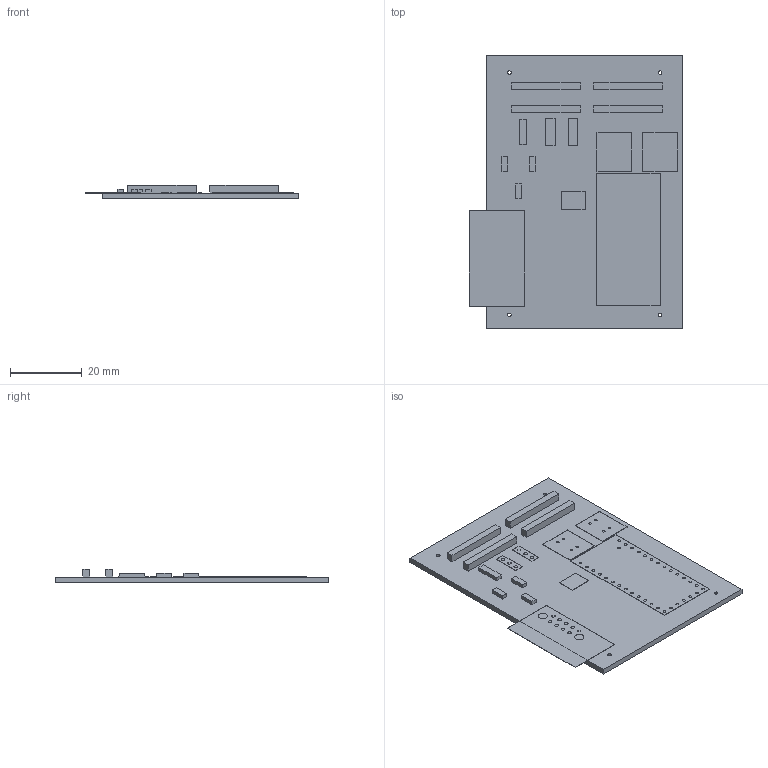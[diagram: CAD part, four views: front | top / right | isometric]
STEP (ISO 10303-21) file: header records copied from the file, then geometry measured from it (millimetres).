
FILE_DESCRIPTION(/* description */ (''),/* implementation_level */ '2;1');
FILE_NAME(/* name */ 'c:\worker\convert-fusion-r06\tmp\job-1\13\output\files\9c2aa205-2815-4b70-8d92-287eea14b798\7b6c3bb1-3839-4e75-9f85-dba441295f2b.stp',/* time_stamp */ '2020-08-29T10:08:14+00:00',/* author */ (''),/* organization */ (''),/* preprocessor_version */ 'ST-DEVELOPER v18.1',/* originating_system */ 'Autodesk Translation Framework v9.3.0.1241',/* authorisation */ '');
FILE_SCHEMA (('AUTOMOTIVE_DESIGN { 1 0 10303 214 3 1 1 }'));
Length unit declared in the file: millimetre
Products named in the file (11): 7b6c3bb1-3839-4e75-9f85-dba441295f2b; PCB Component; Board; 4.7nF; 1N5333; SERVO; SERVO_1; TEENSY4.0; MAX13054ASA; 55DEG; M83513/10-A01NP
Assembly tree (17 placements, depth 3):
  7b6c3bb1-3839-4e75-9f85-dba441295f2b
    PCB Component
      Board
      4.7nF  x3
      1N5333  x4
      SERVO  x2
      SERVO_1
      TEENSY4.0
      MAX13054ASA
      55DEG  x2
      M83513/10-A01NP
Bounding box: 59.42 x 75.87 x 3.72 mm (x, y, z)
Volume: 6884.7 mm3; surface area: 12443.7 mm2
Topology: 16 solids, 16 shells, 176 faces, 432 edges, 288 vertices
Faces by surface type: plane 96, cylinder 80
Full cylindrical faces by diameter (mm): 0.7 x8, 0.8 x34, 0.813 x6, 1 x4, 1.016 x9, 1.02 x9, 1.397 x8, 2.57 x2
Entity records: 4988 total; most frequent: DIRECTION 832, CARTESIAN_POINT 742, ORIENTED_EDGE 696, EDGE_CURVE 348, AXIS2_PLACEMENT_3D 322, EDGE_LOOP 294, VERTEX_POINT 232, LINE 188
